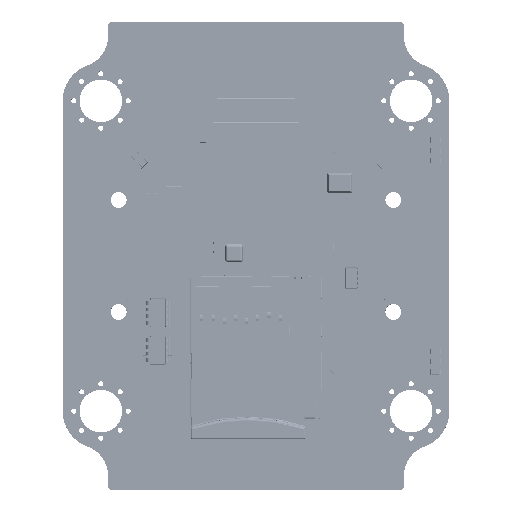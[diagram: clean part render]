
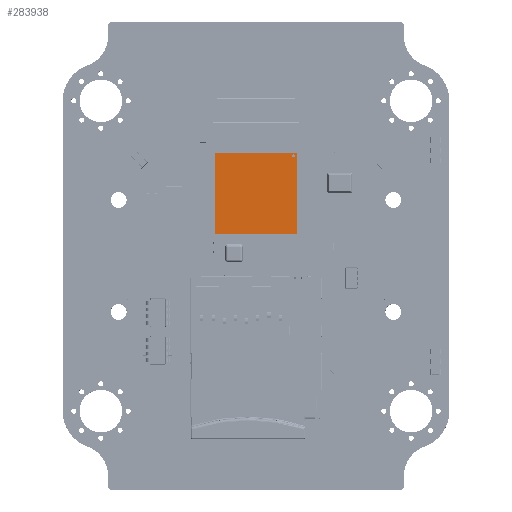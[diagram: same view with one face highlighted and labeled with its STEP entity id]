
A CAD part, top view. The second image highlights one B-rep face of the part: STEP entity #283938.
In plain terms, the highlighted planar face has unit normal (0, 0, 1).
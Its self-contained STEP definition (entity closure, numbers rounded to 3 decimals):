
#10960=FACE_BOUND('',#38757,.T.);
#14377=CIRCLE('',#301848,0.15);
#23852=FACE_OUTER_BOUND('',#38756,.T.);
#38756=EDGE_LOOP('',(#208137,#208138,#208139,#208140));
#38757=EDGE_LOOP('',(#208141));
#59042=LINE('',#410416,#93546);
#59047=LINE('',#410425,#93551);
#59048=LINE('',#410428,#93552);
#59049=LINE('',#410429,#93553);
#93546=VECTOR('',#335642,1.);
#93551=VECTOR('',#335649,1.);
#93552=VECTOR('',#335652,1.);
#93553=VECTOR('',#335653,1.);
#125983=VERTEX_POINT('',#410413);
#125984=VERTEX_POINT('',#410415);
#125987=VERTEX_POINT('',#410423);
#125988=VERTEX_POINT('',#410427);
#125989=VERTEX_POINT('',#410430);
#156751=EDGE_CURVE('',#125983,#125984,#59042,.T.);
#156756=EDGE_CURVE('',#125983,#125987,#59047,.T.);
#156757=EDGE_CURVE('',#125987,#125988,#59048,.T.);
#156758=EDGE_CURVE('',#125984,#125988,#59049,.T.);
#156759=EDGE_CURVE('',#125989,#125989,#14377,.T.);
#208137=ORIENTED_EDGE('',*,*,#156751,.F.);
#208138=ORIENTED_EDGE('',*,*,#156756,.T.);
#208139=ORIENTED_EDGE('',*,*,#156757,.T.);
#208140=ORIENTED_EDGE('',*,*,#156758,.F.);
#208141=ORIENTED_EDGE('',*,*,#156759,.T.);
#271738=PLANE('',#301847);
#283938=ADVANCED_FACE('',(#23852,#10960),#271738,.T.);
#301847=AXIS2_PLACEMENT_3D('',#410426,#335650,#335651);
#301848=AXIS2_PLACEMENT_3D('',#410431,#335654,#335655);
#335642=DIRECTION('',(1.,0.,0.));
#335649=DIRECTION('',(0.,-1.,0.));
#335650=DIRECTION('center_axis',(0.,0.,1.));
#335651=DIRECTION('ref_axis',(0.,-1.,0.));
#335652=DIRECTION('',(1.,0.,0.));
#335653=DIRECTION('',(0.,-1.,0.));
#335654=DIRECTION('center_axis',(0.,0.,-1.));
#335655=DIRECTION('ref_axis',(0.,-1.,0.));
#410413=CARTESIAN_POINT('',(-4.,4.,1.1));
#410415=CARTESIAN_POINT('',(4.,4.,1.1));
#410416=CARTESIAN_POINT('',(-4.,4.,1.1));
#410423=CARTESIAN_POINT('',(-4.,-4.,1.1));
#410425=CARTESIAN_POINT('',(-4.,4.,1.1));
#410426=CARTESIAN_POINT('Origin',(-4.,4.,1.1));
#410427=CARTESIAN_POINT('',(4.,-4.,1.1));
#410428=CARTESIAN_POINT('',(-4.,-4.,1.1));
#410429=CARTESIAN_POINT('',(4.,4.,1.1));
#410430=CARTESIAN_POINT('',(-3.69,3.84,1.1));
#410431=CARTESIAN_POINT('Origin',(-3.69,3.69,1.1));
